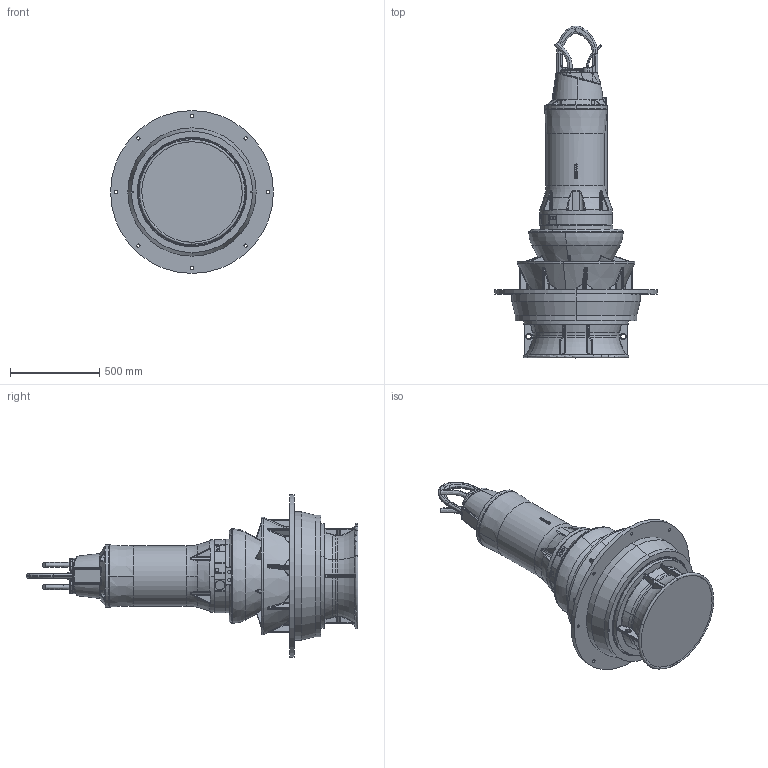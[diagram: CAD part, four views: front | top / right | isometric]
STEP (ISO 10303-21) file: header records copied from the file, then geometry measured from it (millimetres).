
FILE_DESCRIPTION (( 'STEP AP214' ), '1' );
FILE_NAME ('PE4_VUPX0503_FU_A_NG2.STEP', '2017-04-05T11:02:12', ( '' ), ( '' ), 'SwSTEP 2.0', 'SolidWorks 2017', '' );
FILE_SCHEMA (( 'AUTOMOTIVE_DESIGN' ));
Length unit declared in the file: millimetre
Products named in the file (1): PE4_VUPX0503_FU_A_NG2
Bounding box: 913 x 1860.87 x 913 mm (x, y, z)
Volume: 255796587.6 mm3; surface area: 4922405.2 mm2
Topology: 4 solids, 8 shells, 1777 faces, 4283 edges, 2519 vertices
Faces by surface type: bspline 674, cylinder 418, plane 308, torus 205, cone 120, sphere 52
Entity records: 477287 total; most frequent: CARTESIAN_POINT 421494, ORIENTED_EDGE 8458, DIRECTION 6430, EDGE_CURVE 4229, AXIS2_PLACEMENT_3D 2734, VERTEX_POINT 2519, EDGE_LOOP 1858, UNCERTAINTY_MEASURE_WITH_UNIT 1783
